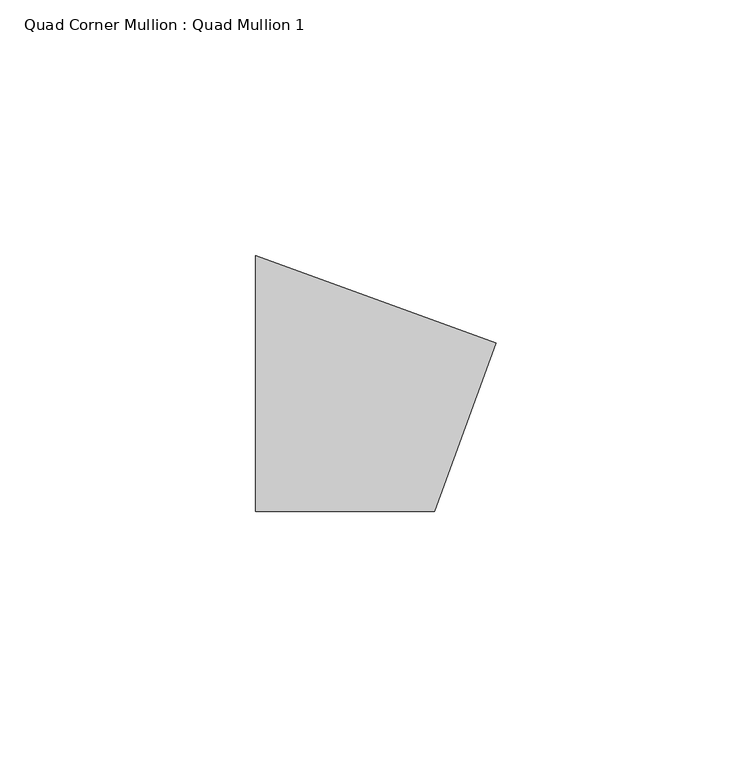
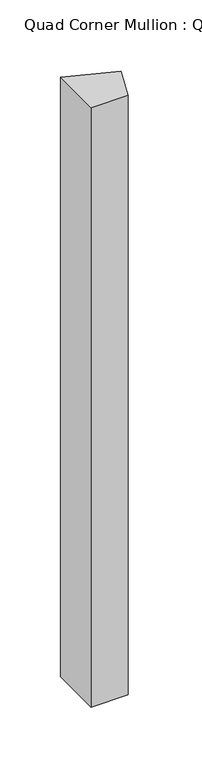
"""IFC4 building model written with IfcOpenShell, lengths in millimetres: member geometry, Quad Corner Mullion : Quad Mullion 1."""

from ifc_helpers import new_model, si_unit, frame, origin, place, context, project, spatial, polyline, outline, extrude, source, transform, mapped, element, save


def quad_corner_mullion_quad_mullion_1_82f527b9(model_context):
    return source(origin(), model_context, "Body", "SweptSolid", [
        extrude(outline(polyline([(29.4794426, 7.8989928), (17.5051885, -25.0), (-17.5051885, -25.0), (-17.5051885, 25.0), (29.4794426, 7.8989928)])), frame((0.0, 0.0, -600.0), z_axis=(0.0, 0.0, 1.0), x_axis=(1.0, 0.0, 0.0)), (0.0, 0.0, 1.0), 600.0),
    ])


if __name__ == "__main__":
    model = new_model("IFC4")
    model_context = context("Model", 3, world=origin())
    ifc_project = project(units=[si_unit("LENGTHUNIT", "METRE", prefix="MILLI")], contexts=[model_context])
    site = spatial("IfcSite", under=ifc_project)
    building = spatial("IfcBuilding", under=site)
    placement = place(None, origin())
    quad_corner_mullion_quad_mullion_1_shape = quad_corner_mullion_quad_mullion_1_82f527b9(model_context)
    element("IfcMember", 1, ObjectType="Quad Corner Mullion : Quad Mullion 1", at=placement, inside=building, context=model_context, shape_type="MappedRepresentation", body=[
        mapped(quad_corner_mullion_quad_mullion_1_shape, transform((0.0, 0.0, 0.0), x_axis=(1.0, 0.0, 0.0), y_axis=(0.0, 1.0, 0.0), z_axis=(0.0, 0.0, 1.0))),
    ])
    save(model, "model.ifc")
